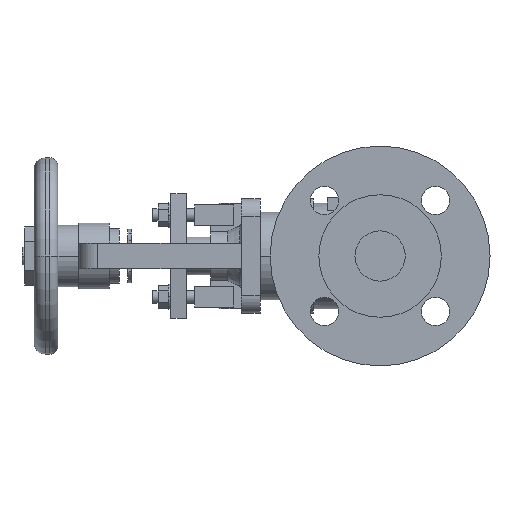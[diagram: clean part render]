
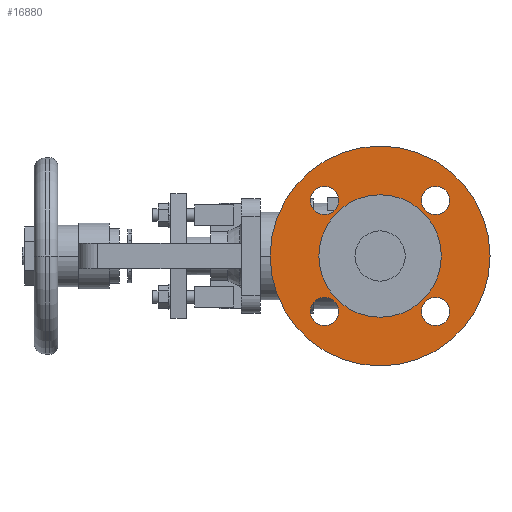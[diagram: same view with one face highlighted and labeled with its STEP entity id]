
A CAD part, left-side view. The second image highlights one B-rep face of the part: STEP entity #16880.
In plain terms, the highlighted planar face has unit normal (-1, 0, 0).
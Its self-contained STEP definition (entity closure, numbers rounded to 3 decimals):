
#8240=CARTESIAN_POINT('',(3.7,0.,-70.));
#8250=VERTEX_POINT('',#8240);
#8410=CARTESIAN_POINT('',(3.7,0.,70.));
#8420=VERTEX_POINT('',#8410);
#8450=CARTESIAN_POINT('',(3.7,0.,0.));
#8460=DIRECTION('',(1.,0.,0.));
#8470=DIRECTION('',(0.,0.,-1.));
#8480=AXIS2_PLACEMENT_3D('',#8450,#8460,#8470);
#8490=CIRCLE('',#8480,70.);
#8500=EDGE_CURVE('',#8250,#8420,#8490,.T.);
#8730=CARTESIAN_POINT('',(3.7,35.355,-44.355));
#8740=VERTEX_POINT('',#8730);
#8900=CARTESIAN_POINT('',(3.7,35.355,-26.355));
#8910=VERTEX_POINT('',#8900);
#8940=CARTESIAN_POINT('',(3.7,35.355,-35.355));
#8950=DIRECTION('',(-1.,0.,0.));
#8960=DIRECTION('',(0.,0.,-1.));
#8970=AXIS2_PLACEMENT_3D('',#8940,#8950,#8960);
#8980=CIRCLE('',#8970,9.);
#8990=EDGE_CURVE('',#8740,#8910,#8980,.T.);
#9220=CARTESIAN_POINT('',(3.7,-35.355,-44.355));
#9230=VERTEX_POINT('',#9220);
#9390=CARTESIAN_POINT('',(3.7,-35.355,-26.355));
#9400=VERTEX_POINT('',#9390);
#9430=CARTESIAN_POINT('',(3.7,-35.355,-35.355));
#9440=DIRECTION('',(-1.,0.,0.));
#9450=DIRECTION('',(0.,0.,-1.));
#9460=AXIS2_PLACEMENT_3D('',#9430,#9440,#9450);
#9470=CIRCLE('',#9460,9.);
#9480=EDGE_CURVE('',#9230,#9400,#9470,.T.);
#9710=CARTESIAN_POINT('',(3.7,35.355,44.355));
#9720=VERTEX_POINT('',#9710);
#9750=CARTESIAN_POINT('',(3.7,35.355,35.355));
#9760=DIRECTION('',(-1.,0.,0.));
#9770=DIRECTION('',(0.,0.,-1.));
#9780=AXIS2_PLACEMENT_3D('',#9750,#9760,#9770);
#9790=CIRCLE('',#9780,9.);
#9800=CARTESIAN_POINT('',(3.7,35.355,26.355));
#9810=VERTEX_POINT('',#9800);
#9820=EDGE_CURVE('',#9810,#9720,#9790,.T.);
#10200=CARTESIAN_POINT('',(3.7,-35.355,44.355));
#10210=VERTEX_POINT('',#10200);
#10240=CARTESIAN_POINT('',(3.7,-35.355,35.355));
#10250=DIRECTION('',(-1.,0.,0.));
#10260=DIRECTION('',(0.,0.,-1.));
#10270=AXIS2_PLACEMENT_3D('',#10240,#10250,#10260);
#10280=CIRCLE('',#10270,9.);
#10290=CARTESIAN_POINT('',(3.7,-35.355,26.355));
#10300=VERTEX_POINT('',#10290);
#10310=EDGE_CURVE('',#10300,#10210,#10280,.T.);
#10690=CARTESIAN_POINT('',(3.7,39.,0.));
#10700=VERTEX_POINT('',#10690);
#10730=CARTESIAN_POINT('',(3.7,0.,0.));
#10740=DIRECTION('',(-1.,0.,0.));
#10750=DIRECTION('',(0.,1.,0.));
#10760=AXIS2_PLACEMENT_3D('',#10730,#10740,#10750);
#10770=CIRCLE('',#10760,39.);
#10780=CARTESIAN_POINT('',(3.7,-39.,0.));
#10790=VERTEX_POINT('',#10780);
#10800=EDGE_CURVE('',#10790,#10700,#10770,.T.);
#16530=CARTESIAN_POINT('',(3.7,54.5,0.));
#16540=DIRECTION('',(1.,0.,0.));
#16550=DIRECTION('',(0.,-1.,0.));
#16560=AXIS2_PLACEMENT_3D('',#16530,#16540,#16550);
#16570=PLANE('',#16560);
#16580=ORIENTED_EDGE('',*,*,#10800,.F.);
#16590=EDGE_CURVE('',#10700,#10790,#10770,.T.);
#16600=ORIENTED_EDGE('',*,*,#16590,.F.);
#16610=EDGE_LOOP('',(#16600,#16580));
#16620=FACE_BOUND('',#16610,.T.);
#16630=EDGE_CURVE('',#8420,#8250,#8490,.T.);
#16640=ORIENTED_EDGE('',*,*,#16630,.F.);
#16650=ORIENTED_EDGE('',*,*,#8500,.F.);
#16660=EDGE_LOOP('',(#16650,#16640));
#16670=FACE_OUTER_BOUND('',#16660,.T.);
#16680=EDGE_CURVE('',#8910,#8740,#8980,.T.);
#16690=ORIENTED_EDGE('',*,*,#16680,.F.);
#16700=ORIENTED_EDGE('',*,*,#8990,.F.);
#16710=EDGE_LOOP('',(#16700,#16690));
#16720=FACE_BOUND('',#16710,.T.);
#16730=EDGE_CURVE('',#9400,#9230,#9470,.T.);
#16740=ORIENTED_EDGE('',*,*,#16730,.F.);
#16750=ORIENTED_EDGE('',*,*,#9480,.F.);
#16760=EDGE_LOOP('',(#16750,#16740));
#16770=FACE_BOUND('',#16760,.T.);
#16780=ORIENTED_EDGE('',*,*,#9820,.F.);
#16790=EDGE_CURVE('',#9720,#9810,#9790,.T.);
#16800=ORIENTED_EDGE('',*,*,#16790,.F.);
#16810=EDGE_LOOP('',(#16800,#16780));
#16820=FACE_BOUND('',#16810,.T.);
#16830=EDGE_CURVE('',#10210,#10300,#10280,.T.);
#16840=ORIENTED_EDGE('',*,*,#16830,.F.);
#16850=ORIENTED_EDGE('',*,*,#10310,.F.);
#16860=EDGE_LOOP('',(#16850,#16840));
#16870=FACE_BOUND('',#16860,.T.);
#16880=ADVANCED_FACE('',(#16620,#16670,#16720,#16770,#16820,#16870),
#16570,.F.);
